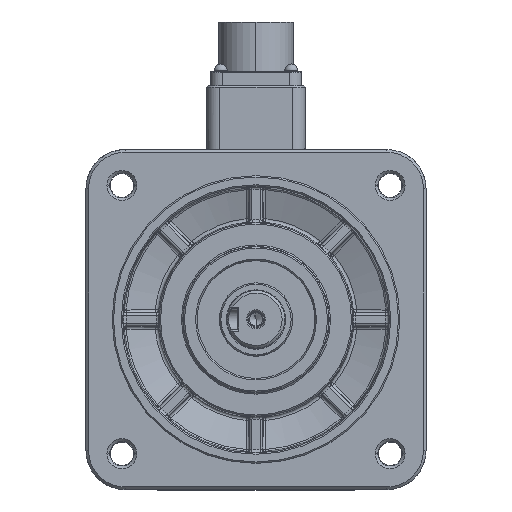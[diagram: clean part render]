
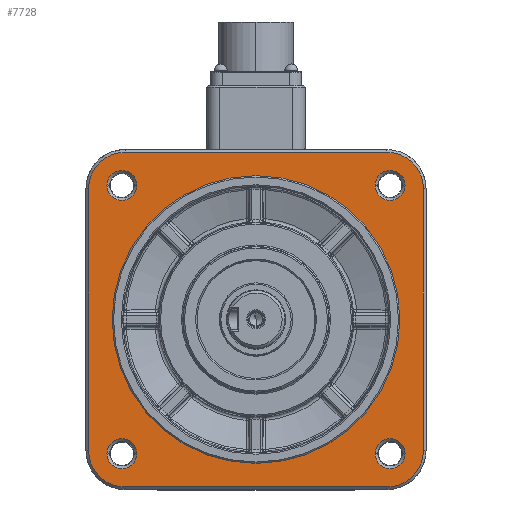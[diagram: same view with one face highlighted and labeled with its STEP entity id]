
A CAD part, top view. The second image highlights one B-rep face of the part: STEP entity #7728.
In plain terms, the highlighted planar face has unit normal (0, 0, 1).
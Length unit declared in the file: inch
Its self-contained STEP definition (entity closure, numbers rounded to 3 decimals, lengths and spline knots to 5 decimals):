
#501=CARTESIAN_POINT('',(-1.9685,1.9685,3.36614));
#502=DIRECTION('',(0.,0.,-1.));
#503=DIRECTION('',(-1.,0.,0.));
#504=AXIS2_PLACEMENT_3D('',#501,#502,#503);
#506=DIRECTION('',(1.,0.,0.));
#507=VECTOR('',#506,3.93701);
#508=CARTESIAN_POINT('',(-1.9685,2.51899,3.36614));
#509=LINE('',#508,#507);
#510=CARTESIAN_POINT('',(1.9685,1.9685,3.36614));
#511=DIRECTION('',(0.,0.,-1.));
#512=DIRECTION('',(0.,1.,0.));
#513=AXIS2_PLACEMENT_3D('',#510,#511,#512);
#515=DIRECTION('',(0.,-1.,0.));
#516=VECTOR('',#515,3.93701);
#517=CARTESIAN_POINT('',(2.51899,1.9685,3.36614));
#518=LINE('',#517,#516);
#519=CARTESIAN_POINT('',(1.9685,-1.9685,3.36614));
#520=DIRECTION('',(0.,0.,-1.));
#521=DIRECTION('',(1.,0.,0.));
#522=AXIS2_PLACEMENT_3D('',#519,#520,#521);
#524=DIRECTION('',(-1.,0.,0.));
#525=VECTOR('',#524,3.93701);
#526=CARTESIAN_POINT('',(1.9685,-2.51899,3.36614));
#527=LINE('',#526,#525);
#528=CARTESIAN_POINT('',(-1.9685,-1.9685,3.36614));
#529=DIRECTION('',(0.,0.,-1.));
#530=DIRECTION('',(0.,-1.,0.));
#531=AXIS2_PLACEMENT_3D('',#528,#529,#530);
#533=DIRECTION('',(0.,1.,0.));
#534=VECTOR('',#533,3.93701);
#535=CARTESIAN_POINT('',(-2.51899,-1.9685,3.36614));
#536=LINE('',#535,#534);
#537=CARTESIAN_POINT('',(-2.01832,2.01832,3.36614));
#538=DIRECTION('',(0.,0.,1.));
#539=DIRECTION('',(-1.,0.,0.));
#540=AXIS2_PLACEMENT_3D('',#537,#538,#539);
#542=CARTESIAN_POINT('',(-2.01832,2.01832,3.36614));
#543=DIRECTION('',(0.,0.,1.));
#544=DIRECTION('',(0.,-1.,0.));
#545=AXIS2_PLACEMENT_3D('',#542,#543,#544);
#547=CARTESIAN_POINT('',(-2.01832,2.01832,3.36614));
#548=DIRECTION('',(0.,0.,1.));
#549=DIRECTION('',(1.,0.,0.));
#550=AXIS2_PLACEMENT_3D('',#547,#548,#549);
#552=CARTESIAN_POINT('',(-2.01832,2.01832,3.36614));
#553=DIRECTION('',(0.,0.,1.));
#554=DIRECTION('',(0.,1.,0.));
#555=AXIS2_PLACEMENT_3D('',#552,#553,#554);
#557=CARTESIAN_POINT('',(0.,0.,3.36614));
#558=DIRECTION('',(0.,0.,1.));
#559=DIRECTION('',(0.,-1.,0.));
#560=AXIS2_PLACEMENT_3D('',#557,#558,#559);
#562=CARTESIAN_POINT('',(0.,0.,3.36614));
#563=DIRECTION('',(0.,0.,1.));
#564=DIRECTION('',(0.,1.,0.));
#565=AXIS2_PLACEMENT_3D('',#562,#563,#564);
#567=CARTESIAN_POINT('',(2.01832,2.01832,3.36614));
#568=DIRECTION('',(0.,0.,1.));
#569=DIRECTION('',(1.,0.,0.));
#570=AXIS2_PLACEMENT_3D('',#567,#568,#569);
#572=CARTESIAN_POINT('',(2.01832,2.01832,3.36614));
#573=DIRECTION('',(0.,0.,1.));
#574=DIRECTION('',(0.,1.,0.));
#575=AXIS2_PLACEMENT_3D('',#572,#573,#574);
#577=CARTESIAN_POINT('',(2.01832,2.01832,3.36614));
#578=DIRECTION('',(0.,0.,1.));
#579=DIRECTION('',(-1.,0.,0.));
#580=AXIS2_PLACEMENT_3D('',#577,#578,#579);
#582=CARTESIAN_POINT('',(2.01832,2.01832,3.36614));
#583=DIRECTION('',(0.,0.,1.));
#584=DIRECTION('',(0.,-1.,0.));
#585=AXIS2_PLACEMENT_3D('',#582,#583,#584);
#587=CARTESIAN_POINT('',(2.01832,-2.01832,3.36614));
#588=DIRECTION('',(0.,0.,1.));
#589=DIRECTION('',(-1.,0.,0.));
#590=AXIS2_PLACEMENT_3D('',#587,#588,#589);
#592=CARTESIAN_POINT('',(2.01832,-2.01832,3.36614));
#593=DIRECTION('',(0.,0.,1.));
#594=DIRECTION('',(0.,-1.,0.));
#595=AXIS2_PLACEMENT_3D('',#592,#593,#594);
#597=CARTESIAN_POINT('',(2.01832,-2.01832,3.36614));
#598=DIRECTION('',(0.,0.,1.));
#599=DIRECTION('',(1.,0.,0.));
#600=AXIS2_PLACEMENT_3D('',#597,#598,#599);
#602=CARTESIAN_POINT('',(2.01832,-2.01832,3.36614));
#603=DIRECTION('',(0.,0.,1.));
#604=DIRECTION('',(0.,1.,0.));
#605=AXIS2_PLACEMENT_3D('',#602,#603,#604);
#607=CARTESIAN_POINT('',(-2.01832,-2.01832,3.36614));
#608=DIRECTION('',(0.,0.,1.));
#609=DIRECTION('',(-1.,0.,0.));
#610=AXIS2_PLACEMENT_3D('',#607,#608,#609);
#612=CARTESIAN_POINT('',(-2.01832,-2.01832,3.36614));
#613=DIRECTION('',(0.,0.,1.));
#614=DIRECTION('',(0.,-1.,0.));
#615=AXIS2_PLACEMENT_3D('',#612,#613,#614);
#617=CARTESIAN_POINT('',(-2.01832,-2.01832,3.36614));
#618=DIRECTION('',(0.,0.,1.));
#619=DIRECTION('',(1.,0.,0.));
#620=AXIS2_PLACEMENT_3D('',#617,#618,#619);
#622=CARTESIAN_POINT('',(-2.01832,-2.01832,3.36614));
#623=DIRECTION('',(0.,0.,1.));
#624=DIRECTION('',(0.,1.,0.));
#625=AXIS2_PLACEMENT_3D('',#622,#623,#624);
#6553=CARTESIAN_POINT('',(-1.9685,2.51899,3.36614));
#6554=CARTESIAN_POINT('',(1.9685,2.51899,3.36614));
#6555=VERTEX_POINT('',#6553);
#6556=VERTEX_POINT('',#6554);
#6557=CARTESIAN_POINT('',(-2.51899,1.9685,3.36614));
#6558=VERTEX_POINT('',#6557);
#6559=CARTESIAN_POINT('',(2.51899,1.9685,3.36614));
#6560=VERTEX_POINT('',#6559);
#6561=CARTESIAN_POINT('',(2.51899,-1.9685,3.36614));
#6562=VERTEX_POINT('',#6561);
#6563=CARTESIAN_POINT('',(1.9685,-2.51899,3.36614));
#6564=VERTEX_POINT('',#6563);
#6565=CARTESIAN_POINT('',(-1.9685,-2.51899,
3.36614));
#6566=VERTEX_POINT('',#6565);
#6567=CARTESIAN_POINT('',(-2.51899,-1.9685,
3.36614));
#6568=VERTEX_POINT('',#6567);
#6569=CARTESIAN_POINT('',(-2.01832,1.79319,3.36614));
#6570=CARTESIAN_POINT('',(-1.79319,2.01832,3.36614));
#6571=VERTEX_POINT('',#6569);
#6572=VERTEX_POINT('',#6570);
#6573=CARTESIAN_POINT('',(-2.24344,2.01832,3.36614));
#6574=VERTEX_POINT('',#6573);
#6575=CARTESIAN_POINT('',(-2.01832,2.24344,3.36614));
#6576=VERTEX_POINT('',#6575);
#6577=CARTESIAN_POINT('',(0.,-2.16535,3.36614));
#6578=CARTESIAN_POINT('',(0.,2.16535,3.36614));
#6579=VERTEX_POINT('',#6577);
#6580=VERTEX_POINT('',#6578);
#6581=CARTESIAN_POINT('',(2.01832,2.24344,3.36614));
#6582=CARTESIAN_POINT('',(1.79319,2.01832,3.36614));
#6583=VERTEX_POINT('',#6581);
#6584=VERTEX_POINT('',#6582);
#6585=CARTESIAN_POINT('',(2.24344,2.01832,3.36614));
#6586=VERTEX_POINT('',#6585);
#6587=CARTESIAN_POINT('',(2.01832,1.79319,3.36614));
#6588=VERTEX_POINT('',#6587);
#6589=CARTESIAN_POINT('',(2.01832,-2.24344,3.36614));
#6590=CARTESIAN_POINT('',(2.24344,-2.01832,3.36614));
#6591=VERTEX_POINT('',#6589);
#6592=VERTEX_POINT('',#6590);
#6593=CARTESIAN_POINT('',(1.79319,-2.01832,3.36614));
#6594=VERTEX_POINT('',#6593);
#6595=CARTESIAN_POINT('',(2.01832,-1.79319,3.36614));
#6596=VERTEX_POINT('',#6595);
#6597=CARTESIAN_POINT('',(-2.01832,-2.24344,
3.36614));
#6598=CARTESIAN_POINT('',(-1.79319,-2.01832,
3.36614));
#6599=VERTEX_POINT('',#6597);
#6600=VERTEX_POINT('',#6598);
#6601=CARTESIAN_POINT('',(-2.24344,-2.01832,
3.36614));
#6602=VERTEX_POINT('',#6601);
#6603=CARTESIAN_POINT('',(-2.01832,-1.79319,
3.36614));
#6604=VERTEX_POINT('',#6603);
#7660=CARTESIAN_POINT('',(0.,0.,3.36614));
#7661=DIRECTION('',(0.,0.,-1.));
#7662=DIRECTION('',(0.,-1.,0.));
#7663=AXIS2_PLACEMENT_3D('',#7660,#7661,#7662);
#7664=PLANE('',#7663);
#7666=ORIENTED_EDGE('',*,*,#7665,.T.);
#7667=ORIENTED_EDGE('',*,*,#7650,.T.);
#7669=ORIENTED_EDGE('',*,*,#7668,.T.);
#7671=ORIENTED_EDGE('',*,*,#7670,.T.);
#7673=ORIENTED_EDGE('',*,*,#7672,.T.);
#7675=ORIENTED_EDGE('',*,*,#7674,.T.);
#7677=ORIENTED_EDGE('',*,*,#7676,.T.);
#7679=ORIENTED_EDGE('',*,*,#7678,.T.);
#7680=EDGE_LOOP('',(#7666,#7667,#7669,#7671,#7673,#7675,#7677,#7679));
#7681=FACE_OUTER_BOUND('',#7680,.F.);
#7683=ORIENTED_EDGE('',*,*,#7682,.T.);
#7685=ORIENTED_EDGE('',*,*,#7684,.T.);
#7687=ORIENTED_EDGE('',*,*,#7686,.T.);
#7689=ORIENTED_EDGE('',*,*,#7688,.T.);
#7690=EDGE_LOOP('',(#7683,#7685,#7687,#7689));
#7691=FACE_BOUND('',#7690,.F.);
#7693=ORIENTED_EDGE('',*,*,#7692,.T.);
#7695=ORIENTED_EDGE('',*,*,#7694,.T.);
#7696=EDGE_LOOP('',(#7693,#7695));
#7697=FACE_BOUND('',#7696,.F.);
#7699=ORIENTED_EDGE('',*,*,#7698,.T.);
#7701=ORIENTED_EDGE('',*,*,#7700,.T.);
#7703=ORIENTED_EDGE('',*,*,#7702,.T.);
#7705=ORIENTED_EDGE('',*,*,#7704,.T.);
#7706=EDGE_LOOP('',(#7699,#7701,#7703,#7705));
#7707=FACE_BOUND('',#7706,.F.);
#7709=ORIENTED_EDGE('',*,*,#7708,.T.);
#7711=ORIENTED_EDGE('',*,*,#7710,.T.);
#7713=ORIENTED_EDGE('',*,*,#7712,.T.);
#7715=ORIENTED_EDGE('',*,*,#7714,.T.);
#7716=EDGE_LOOP('',(#7709,#7711,#7713,#7715));
#7717=FACE_BOUND('',#7716,.F.);
#7719=ORIENTED_EDGE('',*,*,#7718,.T.);
#7721=ORIENTED_EDGE('',*,*,#7720,.T.);
#7723=ORIENTED_EDGE('',*,*,#7722,.T.);
#7725=ORIENTED_EDGE('',*,*,#7724,.T.);
#7726=EDGE_LOOP('',(#7719,#7721,#7723,#7725));
#7727=FACE_BOUND('',#7726,.F.);
#7728=ADVANCED_FACE('',(#7681,#7691,#7697,#7707,#7717,#7727),#7664,.F.);
#505=CIRCLE('',#504,0.55049);
#514=CIRCLE('',#513,0.55049);
#523=CIRCLE('',#522,0.55049);
#532=CIRCLE('',#531,0.55049);
#541=CIRCLE('',#540,0.22513);
#546=CIRCLE('',#545,0.22513);
#551=CIRCLE('',#550,0.22513);
#556=CIRCLE('',#555,0.22513);
#561=CIRCLE('',#560,2.16535);
#566=CIRCLE('',#565,2.16535);
#571=CIRCLE('',#570,0.22513);
#576=CIRCLE('',#575,0.22513);
#581=CIRCLE('',#580,0.22513);
#586=CIRCLE('',#585,0.22513);
#591=CIRCLE('',#590,0.22513);
#596=CIRCLE('',#595,0.22513);
#601=CIRCLE('',#600,0.22513);
#606=CIRCLE('',#605,0.22513);
#611=CIRCLE('',#610,0.22513);
#616=CIRCLE('',#615,0.22513);
#621=CIRCLE('',#620,0.22513);
#626=CIRCLE('',#625,0.22513);
#7650=EDGE_CURVE('',#6555,#6556,#509,.T.);
#7665=EDGE_CURVE('',#6558,#6555,#505,.T.);
#7668=EDGE_CURVE('',#6556,#6560,#514,.T.);
#7670=EDGE_CURVE('',#6560,#6562,#518,.T.);
#7672=EDGE_CURVE('',#6562,#6564,#523,.T.);
#7674=EDGE_CURVE('',#6564,#6566,#527,.T.);
#7676=EDGE_CURVE('',#6566,#6568,#532,.T.);
#7678=EDGE_CURVE('',#6568,#6558,#536,.T.);
#7682=EDGE_CURVE('',#6574,#6571,#541,.T.);
#7684=EDGE_CURVE('',#6571,#6572,#546,.T.);
#7686=EDGE_CURVE('',#6572,#6576,#551,.T.);
#7688=EDGE_CURVE('',#6576,#6574,#556,.T.);
#7692=EDGE_CURVE('',#6579,#6580,#561,.T.);
#7694=EDGE_CURVE('',#6580,#6579,#566,.T.);
#7698=EDGE_CURVE('',#6586,#6583,#571,.T.);
#7700=EDGE_CURVE('',#6583,#6584,#576,.T.);
#7702=EDGE_CURVE('',#6584,#6588,#581,.T.);
#7704=EDGE_CURVE('',#6588,#6586,#586,.T.);
#7708=EDGE_CURVE('',#6594,#6591,#591,.T.);
#7710=EDGE_CURVE('',#6591,#6592,#596,.T.);
#7712=EDGE_CURVE('',#6592,#6596,#601,.T.);
#7714=EDGE_CURVE('',#6596,#6594,#606,.T.);
#7718=EDGE_CURVE('',#6602,#6599,#611,.T.);
#7720=EDGE_CURVE('',#6599,#6600,#616,.T.);
#7722=EDGE_CURVE('',#6600,#6604,#621,.T.);
#7724=EDGE_CURVE('',#6604,#6602,#626,.T.);
